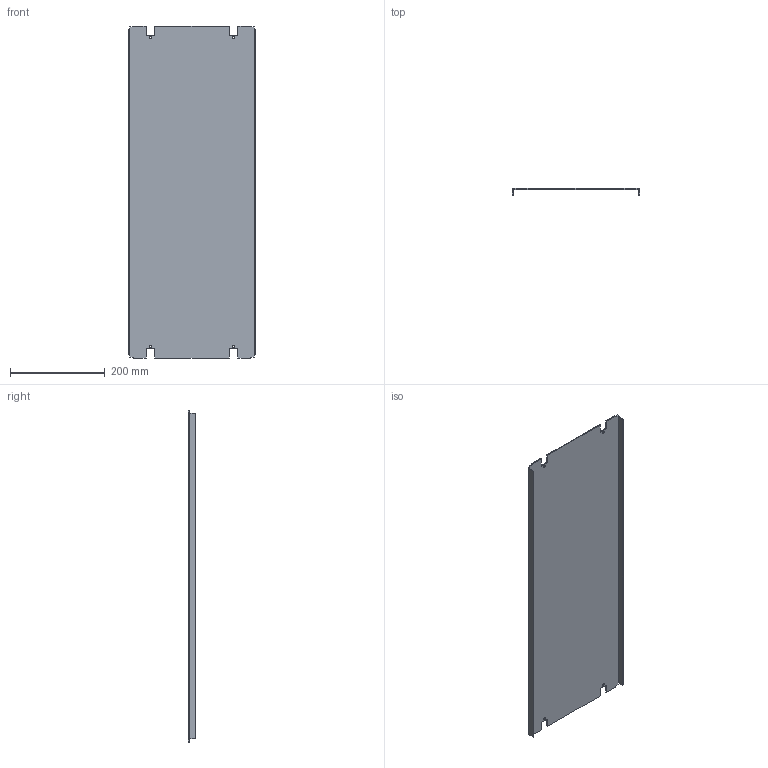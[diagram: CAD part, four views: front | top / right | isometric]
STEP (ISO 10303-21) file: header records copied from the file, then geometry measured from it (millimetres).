
FILE_DESCRIPTION(('CAx-IF Rec.Pracs.---Model Styling and Organization---1.2---2011-12-15','CAx-IF Rec.Pracs.---Geometric and Assembly Validation Properties---4.1---2014-06-16','CAx-IF Rec.Pracs.---PMI Polyline Presentation---2.0---2013-05-24'),'2;1');
FILE_NAME('R5CPL830.stp','2021-05-06T03:46:05+03:00',(''),(''),'STEP Interface 4.4 by CT CoreTechnologie','3D_Evolution4.4 by CT CoreTechnologie','');
FILE_SCHEMA(('AUTOMOTIVE_DESIGN { 1 0 10303 214 1 1 1 1 }'));
Length unit declared in the file: millimetre
Products named in the file (2): R5CPL830; RB.0549.00.00.0_-18
Assembly tree (1 placements, depth 2):
  R5CPL830
    RB.0549.00.00.0_-18
Bounding box: 269 x 15 x 699 mm (x, y, z)
Surface area: 410991 mm2 (no closed solid volume)
Topology: 0 solids, 1 shells, 56 faces, 158 edges, 104 vertices
Faces by surface type: plane 44, cylinder 12
Entity records: 1883 total; most frequent: CARTESIAN_POINT 320, ORIENTED_EDGE 316, DIRECTION 298, EDGE_CURVE 158, VECTOR 134, LINE 134, VERTEX_POINT 104, AXIS2_PLACEMENT_3D 82
